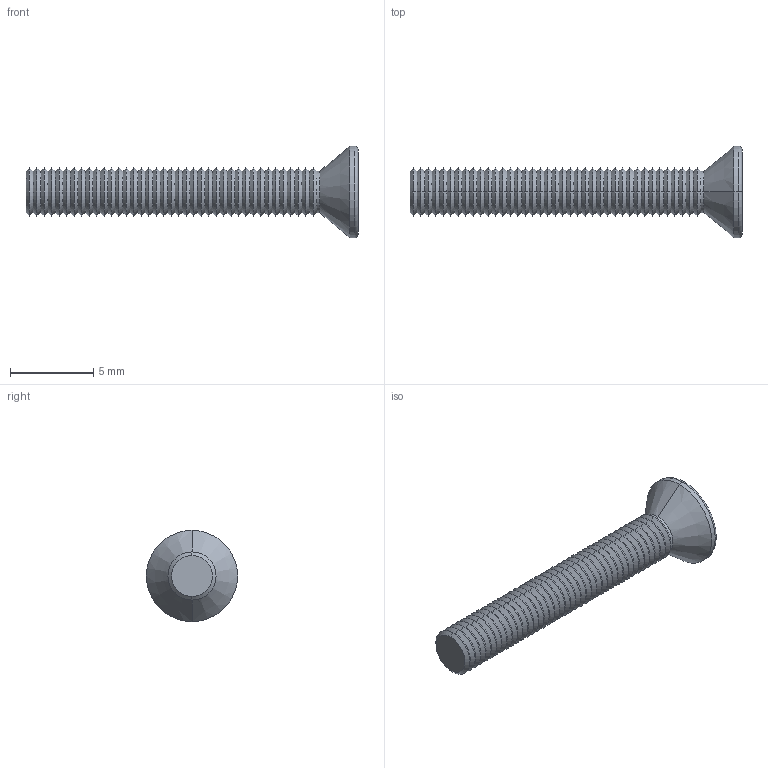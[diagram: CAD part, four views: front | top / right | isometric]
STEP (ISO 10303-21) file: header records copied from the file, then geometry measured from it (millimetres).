
FILE_DESCRIPTION (( 'STEP AP214' ), '1' );
FILE_NAME ('Cargol M 3x20 PP55.STEP', '2017-01-23T11:15:12', ( 'aaa' ), ( '' ), 'SwSTEP 2.0', 'SolidWorks 2013', '' );
FILE_SCHEMA (( 'AUTOMOTIVE_DESIGN' ));
Length unit declared in the file: millimetre
Products named in the file (1): Cargol M 3x20 PP55
Bounding box: 20 x 5.5 x 5.5 mm (x, y, z)
Volume: 135.4 mm3; surface area: 270.4 mm2
Topology: 1 solids, 1 shells, 179 faces, 366 edges, 190 vertices
Faces by surface type: cone 158, plane 15, cylinder 4, torus 2
Entity records: 4586 total; most frequent: DIRECTION 894, CARTESIAN_POINT 736, ORIENTED_EDGE 732, EDGE_CURVE 366, AXIS2_PLACEMENT_3D 348, VECTOR 198, LINE 198, VERTEX_POINT 190
